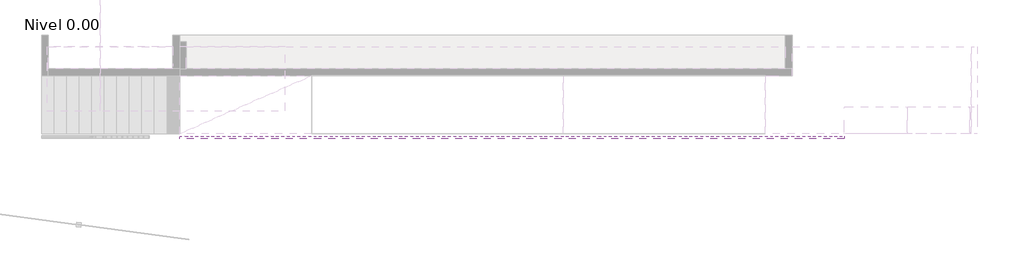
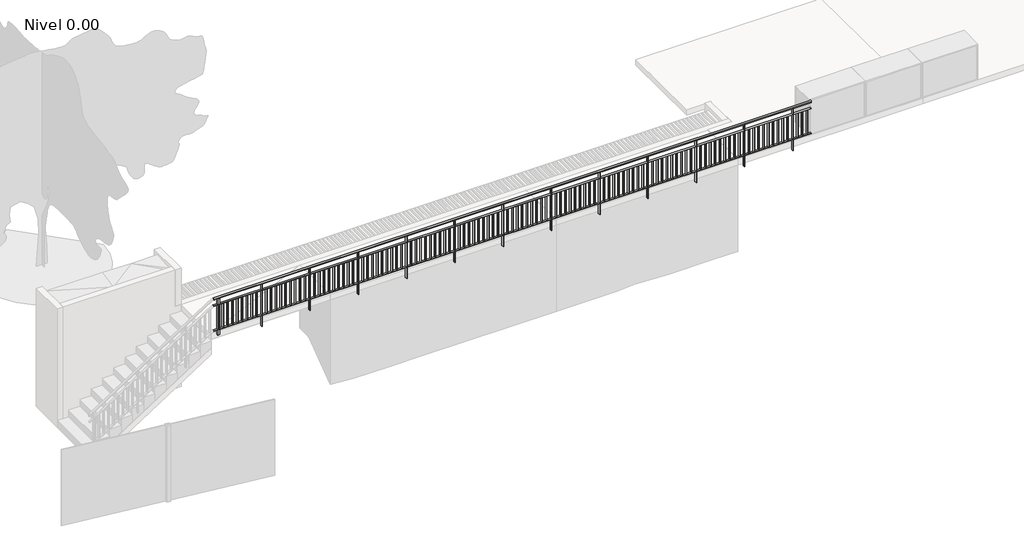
# One storey, part 4 of 10: 1 railing.
"""IFC4 building model written with IfcOpenShell, lengths in millimetres."""

from ifc_helpers import new_model, si_unit, point, frame, frame_2d, origin, place, context, project, spatial, polyline, circle_curve, trimmed, segment, composite_curve, outline, extrude, element, save

model = new_model("IFC4")

# Units and contexts
model_context = context("Model", 3, world=origin())
ifc_project = project(units=[si_unit("LENGTHUNIT", "METRE", prefix="MILLI")], contexts=[model_context])

# Site, building, storey
site = spatial("IfcSite", under=ifc_project)
building = spatial("IfcBuilding", under=site)
storey = spatial("IfcBuildingStorey", under=building, Name="Nivel 0.00", Elevation=0.0)

# Railing
placement = place(None, origin())
element("IfcRailing", 1, ObjectType="BARANDA_RAMPA_1000mm", at=placement, inside=storey, context=model_context, shape_type="SweptSolid", body=[
    extrude(outline(composite_curve([segment(trimmed(circle_curve(frame_2d((-15733.0755384, 2475.0)), 25.0), [point((-15758.0755384, 2475.0))], [point((-15708.0755384, 2475.0))], False, "CARTESIAN"), True, "CONTINUOUS"), segment(trimmed(circle_curve(frame_2d((-15733.0755384, 2475.0)), 25.0), [point((-15708.0755384, 2475.0))], [point((-15758.0755384, 2475.0))], False, "CARTESIAN"), True, "CONTINUOUS")], self_intersect=False)), frame((-19057.5692937, 0.0, 0.0), z_axis=(1.0, 0.0, 0.0), x_axis=(0.0, 1.0, 0.0)), (0.0, 0.0, 1.0), 14857.8461846),
    extrude(outline(polyline([(-19057.5692937, -15753.0755384), (-19057.5692937, -15703.0755384), (-4199.7231091, -15703.0755384), (-4199.7231091, -15753.0755384), (-19057.5692937, -15753.0755384)])), frame((0.0, 0.0, 2288.0), z_axis=(0.0, 0.0, 1.0), x_axis=(1.0, 0.0, 0.0)), (0.0, 0.0, 1.0), 12.0),
    extrude(outline(polyline([(-19057.5692937, -15753.0755384), (-19057.5692937, -15703.0755384), (-4199.7231091, -15703.0755384), (-4199.7231091, -15753.0755384), (-19057.5692937, -15753.0755384)])), frame((0.0, 0.0, 1638.0), z_axis=(0.0, 0.0, 1.0), x_axis=(1.0, 0.0, 0.0)), (0.0, 0.0, 1.0), 12.0),
    extrude(outline(polyline([(-4303.5692937, -15753.0755384), (-4303.5692937, -15703.0755384), (-4291.5692937, -15703.0755384), (-4291.5692937, -15753.0755384), (-4303.5692937, -15753.0755384)])), frame((0.0, 0.0, 1650.0), z_axis=(0.0, 0.0, 1.0), x_axis=(1.0, 0.0, 0.0)), (0.0, 0.0, 1.0), 638.0),
    extrude(outline(polyline([(-4423.5692937, -15753.0755384), (-4423.5692937, -15703.0755384), (-4411.5692937, -15703.0755384), (-4411.5692937, -15753.0755384), (-4423.5692937, -15753.0755384)])), frame((0.0, 0.0, 1650.0), z_axis=(0.0, 0.0, 1.0), x_axis=(1.0, 0.0, 0.0)), (0.0, 0.0, 1.0), 638.0),
    extrude(outline(polyline([(-4543.5692937, -15753.0755384), (-4543.5692937, -15703.0755384), (-4531.5692937, -15703.0755384), (-4531.5692937, -15753.0755384), (-4543.5692937, -15753.0755384)])), frame((0.0, 0.0, 1650.0), z_axis=(0.0, 0.0, 1.0), x_axis=(1.0, 0.0, 0.0)), (0.0, 0.0, 1.0), 638.0),
    extrude(outline(polyline([(-4663.5692937, -15753.0755384), (-4663.5692937, -15703.0755384), (-4651.5692937, -15703.0755384), (-4651.5692937, -15753.0755384), (-4663.5692937, -15753.0755384)])), frame((0.0, 0.0, 1350.0), z_axis=(0.0, 0.0, 1.0), x_axis=(1.0, 0.0, 0.0)), (0.0, 0.0, 1.0), 1100.0),
    extrude(outline(polyline([(-4783.5692937, -15753.0755384), (-4783.5692937, -15703.0755384), (-4771.5692937, -15703.0755384), (-4771.5692937, -15753.0755384), (-4783.5692937, -15753.0755384)])), frame((0.0, 0.0, 1650.0), z_axis=(0.0, 0.0, 1.0), x_axis=(1.0, 0.0, 0.0)), (0.0, 0.0, 1.0), 638.0),
    extrude(outline(polyline([(-4903.5692937, -15753.0755384), (-4903.5692937, -15703.0755384), (-4891.5692937, -15703.0755384), (-4891.5692937, -15753.0755384), (-4903.5692937, -15753.0755384)])), frame((0.0, 0.0, 1650.0), z_axis=(0.0, 0.0, 1.0), x_axis=(1.0, 0.0, 0.0)), (0.0, 0.0, 1.0), 638.0),
    extrude(outline(polyline([(-5023.5692937, -15753.0755384), (-5023.5692937, -15703.0755384), (-5011.5692937, -15703.0755384), (-5011.5692937, -15753.0755384), (-5023.5692937, -15753.0755384)])), frame((0.0, 0.0, 1650.0), z_axis=(0.0, 0.0, 1.0), x_axis=(1.0, 0.0, 0.0)), (0.0, 0.0, 1.0), 638.0),
    extrude(outline(polyline([(-5143.5692937, -15753.0755384), (-5143.5692937, -15703.0755384), (-5131.5692937, -15703.0755384), (-5131.5692937, -15753.0755384), (-5143.5692937, -15753.0755384)])), frame((0.0, 0.0, 1650.0), z_axis=(0.0, 0.0, 1.0), x_axis=(1.0, 0.0, 0.0)), (0.0, 0.0, 1.0), 638.0),
    extrude(outline(polyline([(-5263.5692937, -15753.0755384), (-5263.5692937, -15703.0755384), (-5251.5692937, -15703.0755384), (-5251.5692937, -15753.0755384), (-5263.5692937, -15753.0755384)])), frame((0.0, 0.0, 1650.0), z_axis=(0.0, 0.0, 1.0), x_axis=(1.0, 0.0, 0.0)), (0.0, 0.0, 1.0), 638.0),
    extrude(outline(polyline([(-5383.5692937, -15753.0755384), (-5383.5692937, -15703.0755384), (-5371.5692937, -15703.0755384), (-5371.5692937, -15753.0755384), (-5383.5692937, -15753.0755384)])), frame((0.0, 0.0, 1650.0), z_axis=(0.0, 0.0, 1.0), x_axis=(1.0, 0.0, 0.0)), (0.0, 0.0, 1.0), 638.0),
    extrude(outline(polyline([(-5503.5692937, -15753.0755384), (-5503.5692937, -15703.0755384), (-5491.5692937, -15703.0755384), (-5491.5692937, -15753.0755384), (-5503.5692937, -15753.0755384)])), frame((0.0, 0.0, 1650.0), z_axis=(0.0, 0.0, 1.0), x_axis=(1.0, 0.0, 0.0)), (0.0, 0.0, 1.0), 638.0),
    extrude(outline(polyline([(-5623.5692937, -15753.0755384), (-5623.5692937, -15703.0755384), (-5611.5692937, -15703.0755384), (-5611.5692937, -15753.0755384), (-5623.5692937, -15753.0755384)])), frame((0.0, 0.0, 1650.0), z_axis=(0.0, 0.0, 1.0), x_axis=(1.0, 0.0, 0.0)), (0.0, 0.0, 1.0), 638.0),
    extrude(outline(polyline([(-5743.5692937, -15753.0755384), (-5743.5692937, -15703.0755384), (-5731.5692937, -15703.0755384), (-5731.5692937, -15753.0755384), (-5743.5692937, -15753.0755384)])), frame((0.0, 0.0, 1650.0), z_axis=(0.0, 0.0, 1.0), x_axis=(1.0, 0.0, 0.0)), (0.0, 0.0, 1.0), 638.0),
    extrude(outline(polyline([(-5863.5692937, -15753.0755384), (-5863.5692937, -15703.0755384), (-5851.5692937, -15703.0755384), (-5851.5692937, -15753.0755384), (-5863.5692937, -15753.0755384)])), frame((0.0, 0.0, 1350.0), z_axis=(0.0, 0.0, 1.0), x_axis=(1.0, 0.0, 0.0)), (0.0, 0.0, 1.0), 1100.0),
    extrude(outline(polyline([(-5983.5692937, -15753.0755384), (-5983.5692937, -15703.0755384), (-5971.5692937, -15703.0755384), (-5971.5692937, -15753.0755384), (-5983.5692937, -15753.0755384)])), frame((0.0, 0.0, 1650.0), z_axis=(0.0, 0.0, 1.0), x_axis=(1.0, 0.0, 0.0)), (0.0, 0.0, 1.0), 638.0),
    extrude(outline(polyline([(-6103.5692937, -15753.0755384), (-6103.5692937, -15703.0755384), (-6091.5692937, -15703.0755384), (-6091.5692937, -15753.0755384), (-6103.5692937, -15753.0755384)])), frame((0.0, 0.0, 1650.0), z_axis=(0.0, 0.0, 1.0), x_axis=(1.0, 0.0, 0.0)), (0.0, 0.0, 1.0), 638.0),
    extrude(outline(polyline([(-6223.5692937, -15753.0755384), (-6223.5692937, -15703.0755384), (-6211.5692937, -15703.0755384), (-6211.5692937, -15753.0755384), (-6223.5692937, -15753.0755384)])), frame((0.0, 0.0, 1650.0), z_axis=(0.0, 0.0, 1.0), x_axis=(1.0, 0.0, 0.0)), (0.0, 0.0, 1.0), 638.0),
    extrude(outline(polyline([(-6343.5692937, -15753.0755384), (-6343.5692937, -15703.0755384), (-6331.5692937, -15703.0755384), (-6331.5692937, -15753.0755384), (-6343.5692937, -15753.0755384)])), frame((0.0, 0.0, 1650.0), z_axis=(0.0, 0.0, 1.0), x_axis=(1.0, 0.0, 0.0)), (0.0, 0.0, 1.0), 638.0),
    extrude(outline(polyline([(-6463.5692937, -15753.0755384), (-6463.5692937, -15703.0755384), (-6451.5692937, -15703.0755384), (-6451.5692937, -15753.0755384), (-6463.5692937, -15753.0755384)])), frame((0.0, 0.0, 1650.0), z_axis=(0.0, 0.0, 1.0), x_axis=(1.0, 0.0, 0.0)), (0.0, 0.0, 1.0), 638.0),
    extrude(outline(polyline([(-6583.5692937, -15753.0755384), (-6583.5692937, -15703.0755384), (-6571.5692937, -15703.0755384), (-6571.5692937, -15753.0755384), (-6583.5692937, -15753.0755384)])), frame((0.0, 0.0, 1650.0), z_axis=(0.0, 0.0, 1.0), x_axis=(1.0, 0.0, 0.0)), (0.0, 0.0, 1.0), 638.0),
    extrude(outline(polyline([(-6703.5692937, -15753.0755384), (-6703.5692937, -15703.0755384), (-6691.5692937, -15703.0755384), (-6691.5692937, -15753.0755384), (-6703.5692937, -15753.0755384)])), frame((0.0, 0.0, 1650.0), z_axis=(0.0, 0.0, 1.0), x_axis=(1.0, 0.0, 0.0)), (0.0, 0.0, 1.0), 638.0),
    extrude(outline(polyline([(-6823.5692937, -15753.0755384), (-6823.5692937, -15703.0755384), (-6811.5692937, -15703.0755384), (-6811.5692937, -15753.0755384), (-6823.5692937, -15753.0755384)])), frame((0.0, 0.0, 1650.0), z_axis=(0.0, 0.0, 1.0), x_axis=(1.0, 0.0, 0.0)), (0.0, 0.0, 1.0), 638.0),
    extrude(outline(polyline([(-6943.5692937, -15753.0755384), (-6943.5692937, -15703.0755384), (-6931.5692937, -15703.0755384), (-6931.5692937, -15753.0755384), (-6943.5692937, -15753.0755384)])), frame((0.0, 0.0, 1650.0), z_axis=(0.0, 0.0, 1.0), x_axis=(1.0, 0.0, 0.0)), (0.0, 0.0, 1.0), 638.0),
    extrude(outline(polyline([(-7063.5692937, -15753.0755384), (-7063.5692937, -15703.0755384), (-7051.5692937, -15703.0755384), (-7051.5692937, -15753.0755384), (-7063.5692937, -15753.0755384)])), frame((0.0, 0.0, 1350.0), z_axis=(0.0, 0.0, 1.0), x_axis=(1.0, 0.0, 0.0)), (0.0, 0.0, 1.0), 1100.0),
    extrude(outline(polyline([(-7183.5692937, -15753.0755384), (-7183.5692937, -15703.0755384), (-7171.5692937, -15703.0755384), (-7171.5692937, -15753.0755384), (-7183.5692937, -15753.0755384)])), frame((0.0, 0.0, 1650.0), z_axis=(0.0, 0.0, 1.0), x_axis=(1.0, 0.0, 0.0)), (0.0, 0.0, 1.0), 638.0),
    extrude(outline(polyline([(-7303.5692937, -15753.0755384), (-7303.5692937, -15703.0755384), (-7291.5692937, -15703.0755384), (-7291.5692937, -15753.0755384), (-7303.5692937, -15753.0755384)])), frame((0.0, 0.0, 1650.0), z_axis=(0.0, 0.0, 1.0), x_axis=(1.0, 0.0, 0.0)), (0.0, 0.0, 1.0), 638.0),
    extrude(outline(polyline([(-7423.5692937, -15753.0755384), (-7423.5692937, -15703.0755384), (-7411.5692937, -15703.0755384), (-7411.5692937, -15753.0755384), (-7423.5692937, -15753.0755384)])), frame((0.0, 0.0, 1650.0), z_axis=(0.0, 0.0, 1.0), x_axis=(1.0, 0.0, 0.0)), (0.0, 0.0, 1.0), 638.0),
    extrude(outline(polyline([(-7543.5692937, -15753.0755384), (-7543.5692937, -15703.0755384), (-7531.5692937, -15703.0755384), (-7531.5692937, -15753.0755384), (-7543.5692937, -15753.0755384)])), frame((0.0, 0.0, 1650.0), z_axis=(0.0, 0.0, 1.0), x_axis=(1.0, 0.0, 0.0)), (0.0, 0.0, 1.0), 638.0),
    extrude(outline(polyline([(-7663.5692937, -15753.0755384), (-7663.5692937, -15703.0755384), (-7651.5692937, -15703.0755384), (-7651.5692937, -15753.0755384), (-7663.5692937, -15753.0755384)])), frame((0.0, 0.0, 1650.0), z_axis=(0.0, 0.0, 1.0), x_axis=(1.0, 0.0, 0.0)), (0.0, 0.0, 1.0), 638.0),
    extrude(outline(polyline([(-7783.5692937, -15753.0755384), (-7783.5692937, -15703.0755384), (-7771.5692937, -15703.0755384), (-7771.5692937, -15753.0755384), (-7783.5692937, -15753.0755384)])), frame((0.0, 0.0, 1650.0), z_axis=(0.0, 0.0, 1.0), x_axis=(1.0, 0.0, 0.0)), (0.0, 0.0, 1.0), 638.0),
    extrude(outline(polyline([(-7903.5692937, -15753.0755384), (-7903.5692937, -15703.0755384), (-7891.5692937, -15703.0755384), (-7891.5692937, -15753.0755384), (-7903.5692937, -15753.0755384)])), frame((0.0, 0.0, 1650.0), z_axis=(0.0, 0.0, 1.0), x_axis=(1.0, 0.0, 0.0)), (0.0, 0.0, 1.0), 638.0),
    extrude(outline(polyline([(-8023.5692937, -15753.0755384), (-8023.5692937, -15703.0755384), (-8011.5692937, -15703.0755384), (-8011.5692937, -15753.0755384), (-8023.5692937, -15753.0755384)])), frame((0.0, 0.0, 1650.0), z_axis=(0.0, 0.0, 1.0), x_axis=(1.0, 0.0, 0.0)), (0.0, 0.0, 1.0), 638.0),
    extrude(outline(polyline([(-8143.5692937, -15753.0755384), (-8143.5692937, -15703.0755384), (-8131.5692937, -15703.0755384), (-8131.5692937, -15753.0755384), (-8143.5692937, -15753.0755384)])), frame((0.0, 0.0, 1650.0), z_axis=(0.0, 0.0, 1.0), x_axis=(1.0, 0.0, 0.0)), (0.0, 0.0, 1.0), 638.0),
    extrude(outline(polyline([(-8263.5692937, -15753.0755384), (-8263.5692937, -15703.0755384), (-8251.5692937, -15703.0755384), (-8251.5692937, -15753.0755384), (-8263.5692937, -15753.0755384)])), frame((0.0, 0.0, 1350.0), z_axis=(0.0, 0.0, 1.0), x_axis=(1.0, 0.0, 0.0)), (0.0, 0.0, 1.0), 1100.0),
    extrude(outline(polyline([(-8383.5692937, -15753.0755384), (-8383.5692937, -15703.0755384), (-8371.5692937, -15703.0755384), (-8371.5692937, -15753.0755384), (-8383.5692937, -15753.0755384)])), frame((0.0, 0.0, 1650.0), z_axis=(0.0, 0.0, 1.0), x_axis=(1.0, 0.0, 0.0)), (0.0, 0.0, 1.0), 638.0),
    extrude(outline(polyline([(-8503.5692937, -15753.0755384), (-8503.5692937, -15703.0755384), (-8491.5692937, -15703.0755384), (-8491.5692937, -15753.0755384), (-8503.5692937, -15753.0755384)])), frame((0.0, 0.0, 1650.0), z_axis=(0.0, 0.0, 1.0), x_axis=(1.0, 0.0, 0.0)), (0.0, 0.0, 1.0), 638.0),
    extrude(outline(polyline([(-8623.5692937, -15753.0755384), (-8623.5692937, -15703.0755384), (-8611.5692937, -15703.0755384), (-8611.5692937, -15753.0755384), (-8623.5692937, -15753.0755384)])), frame((0.0, 0.0, 1650.0), z_axis=(0.0, 0.0, 1.0), x_axis=(1.0, 0.0, 0.0)), (0.0, 0.0, 1.0), 638.0),
    extrude(outline(polyline([(-8743.5692937, -15753.0755384), (-8743.5692937, -15703.0755384), (-8731.5692937, -15703.0755384), (-8731.5692937, -15753.0755384), (-8743.5692937, -15753.0755384)])), frame((0.0, 0.0, 1650.0), z_axis=(0.0, 0.0, 1.0), x_axis=(1.0, 0.0, 0.0)), (0.0, 0.0, 1.0), 638.0),
    extrude(outline(polyline([(-8863.5692937, -15753.0755384), (-8863.5692937, -15703.0755384), (-8851.5692937, -15703.0755384), (-8851.5692937, -15753.0755384), (-8863.5692937, -15753.0755384)])), frame((0.0, 0.0, 1650.0), z_axis=(0.0, 0.0, 1.0), x_axis=(1.0, 0.0, 0.0)), (0.0, 0.0, 1.0), 638.0),
    extrude(outline(polyline([(-8983.5692937, -15753.0755384), (-8983.5692937, -15703.0755384), (-8971.5692937, -15703.0755384), (-8971.5692937, -15753.0755384), (-8983.5692937, -15753.0755384)])), frame((0.0, 0.0, 1650.0), z_axis=(0.0, 0.0, 1.0), x_axis=(1.0, 0.0, 0.0)), (0.0, 0.0, 1.0), 638.0),
    extrude(outline(polyline([(-9103.5692937, -15753.0755384), (-9103.5692937, -15703.0755384), (-9091.5692937, -15703.0755384), (-9091.5692937, -15753.0755384), (-9103.5692937, -15753.0755384)])), frame((0.0, 0.0, 1650.0), z_axis=(0.0, 0.0, 1.0), x_axis=(1.0, 0.0, 0.0)), (0.0, 0.0, 1.0), 638.0),
    extrude(outline(polyline([(-9223.5692937, -15753.0755384), (-9223.5692937, -15703.0755384), (-9211.5692937, -15703.0755384), (-9211.5692937, -15753.0755384), (-9223.5692937, -15753.0755384)])), frame((0.0, 0.0, 1650.0), z_axis=(0.0, 0.0, 1.0), x_axis=(1.0, 0.0, 0.0)), (0.0, 0.0, 1.0), 638.0),
    extrude(outline(polyline([(-9343.5692937, -15753.0755384), (-9343.5692937, -15703.0755384), (-9331.5692937, -15703.0755384), (-9331.5692937, -15753.0755384), (-9343.5692937, -15753.0755384)])), frame((0.0, 0.0, 1650.0), z_axis=(0.0, 0.0, 1.0), x_axis=(1.0, 0.0, 0.0)), (0.0, 0.0, 1.0), 638.0),
    extrude(outline(polyline([(-9463.5692937, -15753.0755384), (-9463.5692937, -15703.0755384), (-9451.5692937, -15703.0755384), (-9451.5692937, -15753.0755384), (-9463.5692937, -15753.0755384)])), frame((0.0, 0.0, 1350.0), z_axis=(0.0, 0.0, 1.0), x_axis=(1.0, 0.0, 0.0)), (0.0, 0.0, 1.0), 1100.0),
    extrude(outline(polyline([(-9583.5692937, -15753.0755384), (-9583.5692937, -15703.0755384), (-9571.5692937, -15703.0755384), (-9571.5692937, -15753.0755384), (-9583.5692937, -15753.0755384)])), frame((0.0, 0.0, 1650.0), z_axis=(0.0, 0.0, 1.0), x_axis=(1.0, 0.0, 0.0)), (0.0, 0.0, 1.0), 638.0),
    extrude(outline(polyline([(-9703.5692937, -15753.0755384), (-9703.5692937, -15703.0755384), (-9691.5692937, -15703.0755384), (-9691.5692937, -15753.0755384), (-9703.5692937, -15753.0755384)])), frame((0.0, 0.0, 1650.0), z_axis=(0.0, 0.0, 1.0), x_axis=(1.0, 0.0, 0.0)), (0.0, 0.0, 1.0), 638.0),
    extrude(outline(polyline([(-9823.5692937, -15753.0755384), (-9823.5692937, -15703.0755384), (-9811.5692937, -15703.0755384), (-9811.5692937, -15753.0755384), (-9823.5692937, -15753.0755384)])), frame((0.0, 0.0, 1650.0), z_axis=(0.0, 0.0, 1.0), x_axis=(1.0, 0.0, 0.0)), (0.0, 0.0, 1.0), 638.0),
    extrude(outline(polyline([(-9943.5692937, -15753.0755384), (-9943.5692937, -15703.0755384), (-9931.5692937, -15703.0755384), (-9931.5692937, -15753.0755384), (-9943.5692937, -15753.0755384)])), frame((0.0, 0.0, 1650.0), z_axis=(0.0, 0.0, 1.0), x_axis=(1.0, 0.0, 0.0)), (0.0, 0.0, 1.0), 638.0),
    extrude(outline(polyline([(-10063.5692937, -15753.0755384), (-10063.5692937, -15703.0755384), (-10051.5692937, -15703.0755384), (-10051.5692937, -15753.0755384), (-10063.5692937, -15753.0755384)])), frame((0.0, 0.0, 1650.0), z_axis=(0.0, 0.0, 1.0), x_axis=(1.0, 0.0, 0.0)), (0.0, 0.0, 1.0), 638.0),
    extrude(outline(polyline([(-10183.5692937, -15753.0755384), (-10183.5692937, -15703.0755384), (-10171.5692937, -15703.0755384), (-10171.5692937, -15753.0755384), (-10183.5692937, -15753.0755384)])), frame((0.0, 0.0, 1650.0), z_axis=(0.0, 0.0, 1.0), x_axis=(1.0, 0.0, 0.0)), (0.0, 0.0, 1.0), 638.0),
    extrude(outline(polyline([(-10303.5692937, -15753.0755384), (-10303.5692937, -15703.0755384), (-10291.5692937, -15703.0755384), (-10291.5692937, -15753.0755384), (-10303.5692937, -15753.0755384)])), frame((0.0, 0.0, 1650.0), z_axis=(0.0, 0.0, 1.0), x_axis=(1.0, 0.0, 0.0)), (0.0, 0.0, 1.0), 638.0),
    extrude(outline(polyline([(-10423.5692937, -15753.0755384), (-10423.5692937, -15703.0755384), (-10411.5692937, -15703.0755384), (-10411.5692937, -15753.0755384), (-10423.5692937, -15753.0755384)])), frame((0.0, 0.0, 1650.0), z_axis=(0.0, 0.0, 1.0), x_axis=(1.0, 0.0, 0.0)), (0.0, 0.0, 1.0), 638.0),
    extrude(outline(polyline([(-10543.5692937, -15753.0755384), (-10543.5692937, -15703.0755384), (-10531.5692937, -15703.0755384), (-10531.5692937, -15753.0755384), (-10543.5692937, -15753.0755384)])), frame((0.0, 0.0, 1650.0), z_axis=(0.0, 0.0, 1.0), x_axis=(1.0, 0.0, 0.0)), (0.0, 0.0, 1.0), 638.0),
    extrude(outline(polyline([(-10663.5692937, -15753.0755384), (-10663.5692937, -15703.0755384), (-10651.5692937, -15703.0755384), (-10651.5692937, -15753.0755384), (-10663.5692937, -15753.0755384)])), frame((0.0, 0.0, 1350.0), z_axis=(0.0, 0.0, 1.0), x_axis=(1.0, 0.0, 0.0)), (0.0, 0.0, 1.0), 1100.0),
    extrude(outline(polyline([(-10783.5692937, -15753.0755384), (-10783.5692937, -15703.0755384), (-10771.5692937, -15703.0755384), (-10771.5692937, -15753.0755384), (-10783.5692937, -15753.0755384)])), frame((0.0, 0.0, 1650.0), z_axis=(0.0, 0.0, 1.0), x_axis=(1.0, 0.0, 0.0)), (0.0, 0.0, 1.0), 638.0),
    extrude(outline(polyline([(-10903.5692937, -15753.0755384), (-10903.5692937, -15703.0755384), (-10891.5692937, -15703.0755384), (-10891.5692937, -15753.0755384), (-10903.5692937, -15753.0755384)])), frame((0.0, 0.0, 1650.0), z_axis=(0.0, 0.0, 1.0), x_axis=(1.0, 0.0, 0.0)), (0.0, 0.0, 1.0), 638.0),
    extrude(outline(polyline([(-11023.5692937, -15753.0755384), (-11023.5692937, -15703.0755384), (-11011.5692937, -15703.0755384), (-11011.5692937, -15753.0755384), (-11023.5692937, -15753.0755384)])), frame((0.0, 0.0, 1650.0), z_axis=(0.0, 0.0, 1.0), x_axis=(1.0, 0.0, 0.0)), (0.0, 0.0, 1.0), 638.0),
    extrude(outline(polyline([(-11143.5692937, -15753.0755384), (-11143.5692937, -15703.0755384), (-11131.5692937, -15703.0755384), (-11131.5692937, -15753.0755384), (-11143.5692937, -15753.0755384)])), frame((0.0, 0.0, 1650.0), z_axis=(0.0, 0.0, 1.0), x_axis=(1.0, 0.0, 0.0)), (0.0, 0.0, 1.0), 638.0),
    extrude(outline(polyline([(-11263.5692937, -15753.0755384), (-11263.5692937, -15703.0755384), (-11251.5692937, -15703.0755384), (-11251.5692937, -15753.0755384), (-11263.5692937, -15753.0755384)])), frame((0.0, 0.0, 1650.0), z_axis=(0.0, 0.0, 1.0), x_axis=(1.0, 0.0, 0.0)), (0.0, 0.0, 1.0), 638.0),
    extrude(outline(polyline([(-11383.5692937, -15753.0755384), (-11383.5692937, -15703.0755384), (-11371.5692937, -15703.0755384), (-11371.5692937, -15753.0755384), (-11383.5692937, -15753.0755384)])), frame((0.0, 0.0, 1650.0), z_axis=(0.0, 0.0, 1.0), x_axis=(1.0, 0.0, 0.0)), (0.0, 0.0, 1.0), 638.0),
    extrude(outline(polyline([(-11503.5692937, -15753.0755384), (-11503.5692937, -15703.0755384), (-11491.5692937, -15703.0755384), (-11491.5692937, -15753.0755384), (-11503.5692937, -15753.0755384)])), frame((0.0, 0.0, 1650.0), z_axis=(0.0, 0.0, 1.0), x_axis=(1.0, 0.0, 0.0)), (0.0, 0.0, 1.0), 638.0),
    extrude(outline(polyline([(-11623.5692937, -15753.0755384), (-11623.5692937, -15703.0755384), (-11611.5692937, -15703.0755384), (-11611.5692937, -15753.0755384), (-11623.5692937, -15753.0755384)])), frame((0.0, 0.0, 1650.0), z_axis=(0.0, 0.0, 1.0), x_axis=(1.0, 0.0, 0.0)), (0.0, 0.0, 1.0), 638.0),
    extrude(outline(polyline([(-11743.5692937, -15753.0755384), (-11743.5692937, -15703.0755384), (-11731.5692937, -15703.0755384), (-11731.5692937, -15753.0755384), (-11743.5692937, -15753.0755384)])), frame((0.0, 0.0, 1650.0), z_axis=(0.0, 0.0, 1.0), x_axis=(1.0, 0.0, 0.0)), (0.0, 0.0, 1.0), 638.0),
    extrude(outline(polyline([(-11863.5692937, -15753.0755384), (-11863.5692937, -15703.0755384), (-11851.5692937, -15703.0755384), (-11851.5692937, -15753.0755384), (-11863.5692937, -15753.0755384)])), frame((0.0, 0.0, 1350.0), z_axis=(0.0, 0.0, 1.0), x_axis=(1.0, 0.0, 0.0)), (0.0, 0.0, 1.0), 1100.0),
    extrude(outline(polyline([(-11983.5692937, -15753.0755384), (-11983.5692937, -15703.0755384), (-11971.5692937, -15703.0755384), (-11971.5692937, -15753.0755384), (-11983.5692937, -15753.0755384)])), frame((0.0, 0.0, 1650.0), z_axis=(0.0, 0.0, 1.0), x_axis=(1.0, 0.0, 0.0)), (0.0, 0.0, 1.0), 638.0),
    extrude(outline(polyline([(-12103.5692937, -15753.0755384), (-12103.5692937, -15703.0755384), (-12091.5692937, -15703.0755384), (-12091.5692937, -15753.0755384), (-12103.5692937, -15753.0755384)])), frame((0.0, 0.0, 1650.0), z_axis=(0.0, 0.0, 1.0), x_axis=(1.0, 0.0, 0.0)), (0.0, 0.0, 1.0), 638.0),
    extrude(outline(polyline([(-12223.5692937, -15753.0755384), (-12223.5692937, -15703.0755384), (-12211.5692937, -15703.0755384), (-12211.5692937, -15753.0755384), (-12223.5692937, -15753.0755384)])), frame((0.0, 0.0, 1650.0), z_axis=(0.0, 0.0, 1.0), x_axis=(1.0, 0.0, 0.0)), (0.0, 0.0, 1.0), 638.0),
    extrude(outline(polyline([(-12343.5692937, -15753.0755384), (-12343.5692937, -15703.0755384), (-12331.5692937, -15703.0755384), (-12331.5692937, -15753.0755384), (-12343.5692937, -15753.0755384)])), frame((0.0, 0.0, 1650.0), z_axis=(0.0, 0.0, 1.0), x_axis=(1.0, 0.0, 0.0)), (0.0, 0.0, 1.0), 638.0),
    extrude(outline(polyline([(-12463.5692937, -15753.0755384), (-12463.5692937, -15703.0755384), (-12451.5692937, -15703.0755384), (-12451.5692937, -15753.0755384), (-12463.5692937, -15753.0755384)])), frame((0.0, 0.0, 1650.0), z_axis=(0.0, 0.0, 1.0), x_axis=(1.0, 0.0, 0.0)), (0.0, 0.0, 1.0), 638.0),
    extrude(outline(polyline([(-12583.5692937, -15753.0755384), (-12583.5692937, -15703.0755384), (-12571.5692937, -15703.0755384), (-12571.5692937, -15753.0755384), (-12583.5692937, -15753.0755384)])), frame((0.0, 0.0, 1650.0), z_axis=(0.0, 0.0, 1.0), x_axis=(1.0, 0.0, 0.0)), (0.0, 0.0, 1.0), 638.0),
    extrude(outline(polyline([(-12703.5692937, -15753.0755384), (-12703.5692937, -15703.0755384), (-12691.5692937, -15703.0755384), (-12691.5692937, -15753.0755384), (-12703.5692937, -15753.0755384)])), frame((0.0, 0.0, 1650.0), z_axis=(0.0, 0.0, 1.0), x_axis=(1.0, 0.0, 0.0)), (0.0, 0.0, 1.0), 638.0),
    extrude(outline(polyline([(-12823.5692937, -15753.0755384), (-12823.5692937, -15703.0755384), (-12811.5692937, -15703.0755384), (-12811.5692937, -15753.0755384), (-12823.5692937, -15753.0755384)])), frame((0.0, 0.0, 1650.0), z_axis=(0.0, 0.0, 1.0), x_axis=(1.0, 0.0, 0.0)), (0.0, 0.0, 1.0), 638.0),
    extrude(outline(polyline([(-12943.5692937, -15753.0755384), (-12943.5692937, -15703.0755384), (-12931.5692937, -15703.0755384), (-12931.5692937, -15753.0755384), (-12943.5692937, -15753.0755384)])), frame((0.0, 0.0, 1650.0), z_axis=(0.0, 0.0, 1.0), x_axis=(1.0, 0.0, 0.0)), (0.0, 0.0, 1.0), 638.0),
    extrude(outline(polyline([(-13063.5692937, -15753.0755384), (-13063.5692937, -15703.0755384), (-13051.5692937, -15703.0755384), (-13051.5692937, -15753.0755384), (-13063.5692937, -15753.0755384)])), frame((0.0, 0.0, 1350.0), z_axis=(0.0, 0.0, 1.0), x_axis=(1.0, 0.0, 0.0)), (0.0, 0.0, 1.0), 1100.0),
    extrude(outline(polyline([(-13183.5692937, -15753.0755384), (-13183.5692937, -15703.0755384), (-13171.5692937, -15703.0755384), (-13171.5692937, -15753.0755384), (-13183.5692937, -15753.0755384)])), frame((0.0, 0.0, 1650.0), z_axis=(0.0, 0.0, 1.0), x_axis=(1.0, 0.0, 0.0)), (0.0, 0.0, 1.0), 638.0),
    extrude(outline(polyline([(-13303.5692937, -15753.0755384), (-13303.5692937, -15703.0755384), (-13291.5692937, -15703.0755384), (-13291.5692937, -15753.0755384), (-13303.5692937, -15753.0755384)])), frame((0.0, 0.0, 1650.0), z_axis=(0.0, 0.0, 1.0), x_axis=(1.0, 0.0, 0.0)), (0.0, 0.0, 1.0), 638.0),
    extrude(outline(polyline([(-13423.5692937, -15753.0755384), (-13423.5692937, -15703.0755384), (-13411.5692937, -15703.0755384), (-13411.5692937, -15753.0755384), (-13423.5692937, -15753.0755384)])), frame((0.0, 0.0, 1650.0), z_axis=(0.0, 0.0, 1.0), x_axis=(1.0, 0.0, 0.0)), (0.0, 0.0, 1.0), 638.0),
    extrude(outline(polyline([(-13543.5692937, -15753.0755384), (-13543.5692937, -15703.0755384), (-13531.5692937, -15703.0755384), (-13531.5692937, -15753.0755384), (-13543.5692937, -15753.0755384)])), frame((0.0, 0.0, 1650.0), z_axis=(0.0, 0.0, 1.0), x_axis=(1.0, 0.0, 0.0)), (0.0, 0.0, 1.0), 638.0),
    extrude(outline(polyline([(-13663.5692937, -15753.0755384), (-13663.5692937, -15703.0755384), (-13651.5692937, -15703.0755384), (-13651.5692937, -15753.0755384), (-13663.5692937, -15753.0755384)])), frame((0.0, 0.0, 1650.0), z_axis=(0.0, 0.0, 1.0), x_axis=(1.0, 0.0, 0.0)), (0.0, 0.0, 1.0), 638.0),
    extrude(outline(polyline([(-13783.5692937, -15753.0755384), (-13783.5692937, -15703.0755384), (-13771.5692937, -15703.0755384), (-13771.5692937, -15753.0755384), (-13783.5692937, -15753.0755384)])), frame((0.0, 0.0, 1650.0), z_axis=(0.0, 0.0, 1.0), x_axis=(1.0, 0.0, 0.0)), (0.0, 0.0, 1.0), 638.0),
    extrude(outline(polyline([(-13903.5692937, -15753.0755384), (-13903.5692937, -15703.0755384), (-13891.5692937, -15703.0755384), (-13891.5692937, -15753.0755384), (-13903.5692937, -15753.0755384)])), frame((0.0, 0.0, 1650.0), z_axis=(0.0, 0.0, 1.0), x_axis=(1.0, 0.0, 0.0)), (0.0, 0.0, 1.0), 638.0),
    extrude(outline(polyline([(-14023.5692937, -15753.0755384), (-14023.5692937, -15703.0755384), (-14011.5692937, -15703.0755384), (-14011.5692937, -15753.0755384), (-14023.5692937, -15753.0755384)])), frame((0.0, 0.0, 1650.0), z_axis=(0.0, 0.0, 1.0), x_axis=(1.0, 0.0, 0.0)), (0.0, 0.0, 1.0), 638.0),
    extrude(outline(polyline([(-14143.5692937, -15753.0755384), (-14143.5692937, -15703.0755384), (-14131.5692937, -15703.0755384), (-14131.5692937, -15753.0755384), (-14143.5692937, -15753.0755384)])), frame((0.0, 0.0, 1650.0), z_axis=(0.0, 0.0, 1.0), x_axis=(1.0, 0.0, 0.0)), (0.0, 0.0, 1.0), 638.0),
    extrude(outline(polyline([(-14263.5692937, -15753.0755384), (-14263.5692937, -15703.0755384), (-14251.5692937, -15703.0755384), (-14251.5692937, -15753.0755384), (-14263.5692937, -15753.0755384)])), frame((0.0, 0.0, 1350.0), z_axis=(0.0, 0.0, 1.0), x_axis=(1.0, 0.0, 0.0)), (0.0, 0.0, 1.0), 1100.0),
    extrude(outline(polyline([(-14383.5692937, -15753.0755384), (-14383.5692937, -15703.0755384), (-14371.5692937, -15703.0755384), (-14371.5692937, -15753.0755384), (-14383.5692937, -15753.0755384)])), frame((0.0, 0.0, 1650.0), z_axis=(0.0, 0.0, 1.0), x_axis=(1.0, 0.0, 0.0)), (0.0, 0.0, 1.0), 638.0),
    extrude(outline(polyline([(-14503.5692937, -15753.0755384), (-14503.5692937, -15703.0755384), (-14491.5692937, -15703.0755384), (-14491.5692937, -15753.0755384), (-14503.5692937, -15753.0755384)])), frame((0.0, 0.0, 1650.0), z_axis=(0.0, 0.0, 1.0), x_axis=(1.0, 0.0, 0.0)), (0.0, 0.0, 1.0), 638.0),
    extrude(outline(polyline([(-14623.5692937, -15753.0755384), (-14623.5692937, -15703.0755384), (-14611.5692937, -15703.0755384), (-14611.5692937, -15753.0755384), (-14623.5692937, -15753.0755384)])), frame((0.0, 0.0, 1650.0), z_axis=(0.0, 0.0, 1.0), x_axis=(1.0, 0.0, 0.0)), (0.0, 0.0, 1.0), 638.0),
    extrude(outline(polyline([(-14743.5692937, -15753.0755384), (-14743.5692937, -15703.0755384), (-14731.5692937, -15703.0755384), (-14731.5692937, -15753.0755384), (-14743.5692937, -15753.0755384)])), frame((0.0, 0.0, 1650.0), z_axis=(0.0, 0.0, 1.0), x_axis=(1.0, 0.0, 0.0)), (0.0, 0.0, 1.0), 638.0),
    extrude(outline(polyline([(-14863.5692937, -15753.0755384), (-14863.5692937, -15703.0755384), (-14851.5692937, -15703.0755384), (-14851.5692937, -15753.0755384), (-14863.5692937, -15753.0755384)])), frame((0.0, 0.0, 1650.0), z_axis=(0.0, 0.0, 1.0), x_axis=(1.0, 0.0, 0.0)), (0.0, 0.0, 1.0), 638.0),
    extrude(outline(polyline([(-14983.5692937, -15753.0755384), (-14983.5692937, -15703.0755384), (-14971.5692937, -15703.0755384), (-14971.5692937, -15753.0755384), (-14983.5692937, -15753.0755384)])), frame((0.0, 0.0, 1650.0), z_axis=(0.0, 0.0, 1.0), x_axis=(1.0, 0.0, 0.0)), (0.0, 0.0, 1.0), 638.0),
    extrude(outline(polyline([(-15103.5692937, -15753.0755384), (-15103.5692937, -15703.0755384), (-15091.5692937, -15703.0755384), (-15091.5692937, -15753.0755384), (-15103.5692937, -15753.0755384)])), frame((0.0, 0.0, 1650.0), z_axis=(0.0, 0.0, 1.0), x_axis=(1.0, 0.0, 0.0)), (0.0, 0.0, 1.0), 638.0),
    extrude(outline(polyline([(-15223.5692937, -15753.0755384), (-15223.5692937, -15703.0755384), (-15211.5692937, -15703.0755384), (-15211.5692937, -15753.0755384), (-15223.5692937, -15753.0755384)])), frame((0.0, 0.0, 1650.0), z_axis=(0.0, 0.0, 1.0), x_axis=(1.0, 0.0, 0.0)), (0.0, 0.0, 1.0), 638.0),
    extrude(outline(polyline([(-15343.5692937, -15753.0755384), (-15343.5692937, -15703.0755384), (-15331.5692937, -15703.0755384), (-15331.5692937, -15753.0755384), (-15343.5692937, -15753.0755384)])), frame((0.0, 0.0, 1650.0), z_axis=(0.0, 0.0, 1.0), x_axis=(1.0, 0.0, 0.0)), (0.0, 0.0, 1.0), 638.0),
    extrude(outline(polyline([(-15463.5692937, -15753.0755384), (-15463.5692937, -15703.0755384), (-15451.5692937, -15703.0755384), (-15451.5692937, -15753.0755384), (-15463.5692937, -15753.0755384)])), frame((0.0, 0.0, 1350.0), z_axis=(0.0, 0.0, 1.0), x_axis=(1.0, 0.0, 0.0)), (0.0, 0.0, 1.0), 1100.0),
    extrude(outline(polyline([(-15583.5692937, -15753.0755384), (-15583.5692937, -15703.0755384), (-15571.5692937, -15703.0755384), (-15571.5692937, -15753.0755384), (-15583.5692937, -15753.0755384)])), frame((0.0, 0.0, 1650.0), z_axis=(0.0, 0.0, 1.0), x_axis=(1.0, 0.0, 0.0)), (0.0, 0.0, 1.0), 638.0),
    extrude(outline(polyline([(-15703.5692937, -15753.0755384), (-15703.5692937, -15703.0755384), (-15691.5692937, -15703.0755384), (-15691.5692937, -15753.0755384), (-15703.5692937, -15753.0755384)])), frame((0.0, 0.0, 1650.0), z_axis=(0.0, 0.0, 1.0), x_axis=(1.0, 0.0, 0.0)), (0.0, 0.0, 1.0), 638.0),
    extrude(outline(polyline([(-15823.5692937, -15753.0755384), (-15823.5692937, -15703.0755384), (-15811.5692937, -15703.0755384), (-15811.5692937, -15753.0755384), (-15823.5692937, -15753.0755384)])), frame((0.0, 0.0, 1650.0), z_axis=(0.0, 0.0, 1.0), x_axis=(1.0, 0.0, 0.0)), (0.0, 0.0, 1.0), 638.0),
    extrude(outline(polyline([(-15943.5692937, -15753.0755384), (-15943.5692937, -15703.0755384), (-15931.5692937, -15703.0755384), (-15931.5692937, -15753.0755384), (-15943.5692937, -15753.0755384)])), frame((0.0, 0.0, 1650.0), z_axis=(0.0, 0.0, 1.0), x_axis=(1.0, 0.0, 0.0)), (0.0, 0.0, 1.0), 638.0),
    extrude(outline(polyline([(-16063.5692937, -15753.0755384), (-16063.5692937, -15703.0755384), (-16051.5692937, -15703.0755384), (-16051.5692937, -15753.0755384), (-16063.5692937, -15753.0755384)])), frame((0.0, 0.0, 1650.0), z_axis=(0.0, 0.0, 1.0), x_axis=(1.0, 0.0, 0.0)), (0.0, 0.0, 1.0), 638.0),
    extrude(outline(polyline([(-16183.5692937, -15753.0755384), (-16183.5692937, -15703.0755384), (-16171.5692937, -15703.0755384), (-16171.5692937, -15753.0755384), (-16183.5692937, -15753.0755384)])), frame((0.0, 0.0, 1650.0), z_axis=(0.0, 0.0, 1.0), x_axis=(1.0, 0.0, 0.0)), (0.0, 0.0, 1.0), 638.0),
    extrude(outline(polyline([(-16303.5692937, -15753.0755384), (-16303.5692937, -15703.0755384), (-16291.5692937, -15703.0755384), (-16291.5692937, -15753.0755384), (-16303.5692937, -15753.0755384)])), frame((0.0, 0.0, 1650.0), z_axis=(0.0, 0.0, 1.0), x_axis=(1.0, 0.0, 0.0)), (0.0, 0.0, 1.0), 638.0),
    extrude(outline(polyline([(-16423.5692937, -15753.0755384), (-16423.5692937, -15703.0755384), (-16411.5692937, -15703.0755384), (-16411.5692937, -15753.0755384), (-16423.5692937, -15753.0755384)])), frame((0.0, 0.0, 1650.0), z_axis=(0.0, 0.0, 1.0), x_axis=(1.0, 0.0, 0.0)), (0.0, 0.0, 1.0), 638.0),
    extrude(outline(polyline([(-16543.5692937, -15753.0755384), (-16543.5692937, -15703.0755384), (-16531.5692937, -15703.0755384), (-16531.5692937, -15753.0755384), (-16543.5692937, -15753.0755384)])), frame((0.0, 0.0, 1650.0), z_axis=(0.0, 0.0, 1.0), x_axis=(1.0, 0.0, 0.0)), (0.0, 0.0, 1.0), 638.0),
    extrude(outline(polyline([(-16663.5692937, -15753.0755384), (-16663.5692937, -15703.0755384), (-16651.5692937, -15703.0755384), (-16651.5692937, -15753.0755384), (-16663.5692937, -15753.0755384)])), frame((0.0, 0.0, 1350.0), z_axis=(0.0, 0.0, 1.0), x_axis=(1.0, 0.0, 0.0)), (0.0, 0.0, 1.0), 1100.0),
    extrude(outline(polyline([(-16783.5692937, -15753.0755384), (-16783.5692937, -15703.0755384), (-16771.5692937, -15703.0755384), (-16771.5692937, -15753.0755384), (-16783.5692937, -15753.0755384)])), frame((0.0, 0.0, 1650.0), z_axis=(0.0, 0.0, 1.0), x_axis=(1.0, 0.0, 0.0)), (0.0, 0.0, 1.0), 638.0),
    extrude(outline(polyline([(-16903.5692937, -15753.0755384), (-16903.5692937, -15703.0755384), (-16891.5692937, -15703.0755384), (-16891.5692937, -15753.0755384), (-16903.5692937, -15753.0755384)])), frame((0.0, 0.0, 1650.0), z_axis=(0.0, 0.0, 1.0), x_axis=(1.0, 0.0, 0.0)), (0.0, 0.0, 1.0), 638.0),
    extrude(outline(polyline([(-17023.5692937, -15753.0755384), (-17023.5692937, -15703.0755384), (-17011.5692937, -15703.0755384), (-17011.5692937, -15753.0755384), (-17023.5692937, -15753.0755384)])), frame((0.0, 0.0, 1650.0), z_axis=(0.0, 0.0, 1.0), x_axis=(1.0, 0.0, 0.0)), (0.0, 0.0, 1.0), 638.0),
    extrude(outline(polyline([(-17143.5692937, -15753.0755384), (-17143.5692937, -15703.0755384), (-17131.5692937, -15703.0755384), (-17131.5692937, -15753.0755384), (-17143.5692937, -15753.0755384)])), frame((0.0, 0.0, 1650.0), z_axis=(0.0, 0.0, 1.0), x_axis=(1.0, 0.0, 0.0)), (0.0, 0.0, 1.0), 638.0),
    extrude(outline(polyline([(-17263.5692937, -15753.0755384), (-17263.5692937, -15703.0755384), (-17251.5692937, -15703.0755384), (-17251.5692937, -15753.0755384), (-17263.5692937, -15753.0755384)])), frame((0.0, 0.0, 1650.0), z_axis=(0.0, 0.0, 1.0), x_axis=(1.0, 0.0, 0.0)), (0.0, 0.0, 1.0), 638.0),
    extrude(outline(polyline([(-17383.5692937, -15753.0755384), (-17383.5692937, -15703.0755384), (-17371.5692937, -15703.0755384), (-17371.5692937, -15753.0755384), (-17383.5692937, -15753.0755384)])), frame((0.0, 0.0, 1650.0), z_axis=(0.0, 0.0, 1.0), x_axis=(1.0, 0.0, 0.0)), (0.0, 0.0, 1.0), 638.0),
    extrude(outline(polyline([(-17503.5692937, -15753.0755384), (-17503.5692937, -15703.0755384), (-17491.5692937, -15703.0755384), (-17491.5692937, -15753.0755384), (-17503.5692937, -15753.0755384)])), frame((0.0, 0.0, 1650.0), z_axis=(0.0, 0.0, 1.0), x_axis=(1.0, 0.0, 0.0)), (0.0, 0.0, 1.0), 638.0),
    extrude(outline(polyline([(-17623.5692937, -15753.0755384), (-17623.5692937, -15703.0755384), (-17611.5692937, -15703.0755384), (-17611.5692937, -15753.0755384), (-17623.5692937, -15753.0755384)])), frame((0.0, 0.0, 1650.0), z_axis=(0.0, 0.0, 1.0), x_axis=(1.0, 0.0, 0.0)), (0.0, 0.0, 1.0), 638.0),
    extrude(outline(polyline([(-17743.5692937, -15753.0755384), (-17743.5692937, -15703.0755384), (-17731.5692937, -15703.0755384), (-17731.5692937, -15753.0755384), (-17743.5692937, -15753.0755384)])), frame((0.0, 0.0, 1650.0), z_axis=(0.0, 0.0, 1.0), x_axis=(1.0, 0.0, 0.0)), (0.0, 0.0, 1.0), 638.0),
    extrude(outline(polyline([(-17863.5692937, -15753.0755384), (-17863.5692937, -15703.0755384), (-17851.5692937, -15703.0755384), (-17851.5692937, -15753.0755384), (-17863.5692937, -15753.0755384)])), frame((0.0, 0.0, 1350.0), z_axis=(0.0, 0.0, 1.0), x_axis=(1.0, 0.0, 0.0)), (0.0, 0.0, 1.0), 1100.0),
    extrude(outline(polyline([(-17983.5692937, -15753.0755384), (-17983.5692937, -15703.0755384), (-17971.5692937, -15703.0755384), (-17971.5692937, -15753.0755384), (-17983.5692937, -15753.0755384)])), frame((0.0, 0.0, 1650.0), z_axis=(0.0, 0.0, 1.0), x_axis=(1.0, 0.0, 0.0)), (0.0, 0.0, 1.0), 638.0),
    extrude(outline(polyline([(-18103.5692937, -15753.0755384), (-18103.5692937, -15703.0755384), (-18091.5692937, -15703.0755384), (-18091.5692937, -15753.0755384), (-18103.5692937, -15753.0755384)])), frame((0.0, 0.0, 1650.0), z_axis=(0.0, 0.0, 1.0), x_axis=(1.0, 0.0, 0.0)), (0.0, 0.0, 1.0), 638.0),
    extrude(outline(polyline([(-18223.5692937, -15753.0755384), (-18223.5692937, -15703.0755384), (-18211.5692937, -15703.0755384), (-18211.5692937, -15753.0755384), (-18223.5692937, -15753.0755384)])), frame((0.0, 0.0, 1650.0), z_axis=(0.0, 0.0, 1.0), x_axis=(1.0, 0.0, 0.0)), (0.0, 0.0, 1.0), 638.0),
    extrude(outline(polyline([(-18343.5692937, -15753.0755384), (-18343.5692937, -15703.0755384), (-18331.5692937, -15703.0755384), (-18331.5692937, -15753.0755384), (-18343.5692937, -15753.0755384)])), frame((0.0, 0.0, 1650.0), z_axis=(0.0, 0.0, 1.0), x_axis=(1.0, 0.0, 0.0)), (0.0, 0.0, 1.0), 638.0),
    extrude(outline(polyline([(-18463.5692937, -15753.0755384), (-18463.5692937, -15703.0755384), (-18451.5692937, -15703.0755384), (-18451.5692937, -15753.0755384), (-18463.5692937, -15753.0755384)])), frame((0.0, 0.0, 1650.0), z_axis=(0.0, 0.0, 1.0), x_axis=(1.0, 0.0, 0.0)), (0.0, 0.0, 1.0), 638.0),
    extrude(outline(polyline([(-18583.5692937, -15753.0755384), (-18583.5692937, -15703.0755384), (-18571.5692937, -15703.0755384), (-18571.5692937, -15753.0755384), (-18583.5692937, -15753.0755384)])), frame((0.0, 0.0, 1650.0), z_axis=(0.0, 0.0, 1.0), x_axis=(1.0, 0.0, 0.0)), (0.0, 0.0, 1.0), 638.0),
    extrude(outline(polyline([(-18703.5692937, -15753.0755384), (-18703.5692937, -15703.0755384), (-18691.5692937, -15703.0755384), (-18691.5692937, -15753.0755384), (-18703.5692937, -15753.0755384)])), frame((0.0, 0.0, 1650.0), z_axis=(0.0, 0.0, 1.0), x_axis=(1.0, 0.0, 0.0)), (0.0, 0.0, 1.0), 638.0),
    extrude(outline(polyline([(-18823.5692937, -15753.0755384), (-18823.5692937, -15703.0755384), (-18811.5692937, -15703.0755384), (-18811.5692937, -15753.0755384), (-18823.5692937, -15753.0755384)])), frame((0.0, 0.0, 1650.0), z_axis=(0.0, 0.0, 1.0), x_axis=(1.0, 0.0, 0.0)), (0.0, 0.0, 1.0), 638.0),
    extrude(outline(polyline([(-18943.5692937, -15753.0755384), (-18943.5692937, -15703.0755384), (-18931.5692937, -15703.0755384), (-18931.5692937, -15753.0755384), (-18943.5692937, -15753.0755384)])), frame((0.0, 0.0, 1650.0), z_axis=(0.0, 0.0, 1.0), x_axis=(1.0, 0.0, 0.0)), (0.0, 0.0, 1.0), 638.0),
    extrude(outline(polyline([(-18957.5692937, -15753.0755384), (-18957.5692937, -15703.0755384), (-18907.5692937, -15703.0755384), (-18907.5692937, -15753.0755384), (-18957.5692937, -15753.0755384)])), frame((0.0, 0.0, 1500.0), z_axis=(0.0, 0.0, 1.0), x_axis=(1.0, 0.0, 0.0)), (0.0, 0.0, 1.0), 950.0),
])

save(model, "model.ifc")
